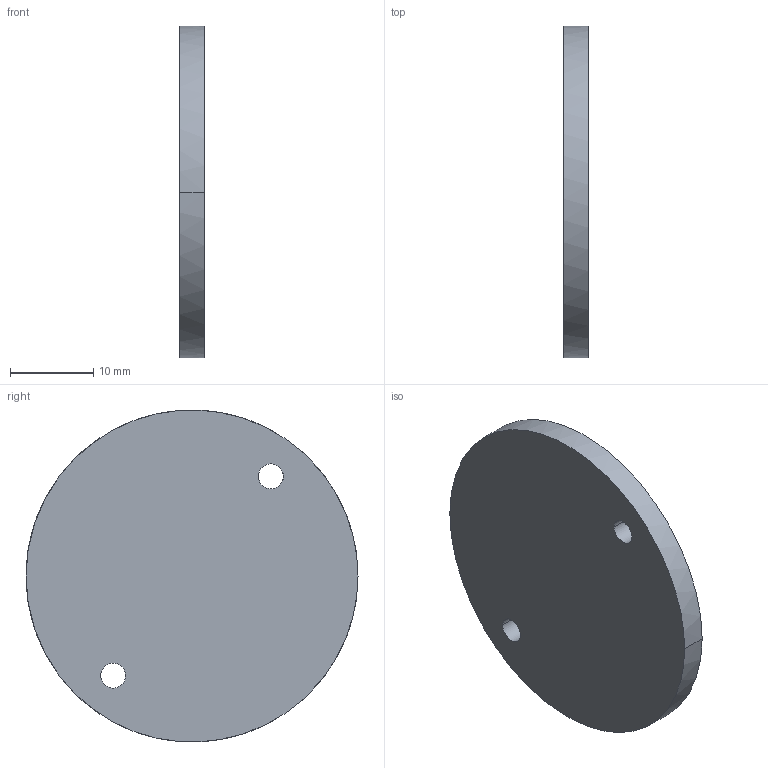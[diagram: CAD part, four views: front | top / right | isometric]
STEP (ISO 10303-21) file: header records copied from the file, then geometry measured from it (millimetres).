
FILE_DESCRIPTION(/* description */ (''),/* implementation_level */ '2;1');
FILE_NAME(/* name */ '1.frame-bottom#1.8#la-pan-8',/* time_stamp */ '2014-12-01T20:11:33+01:00',/* author */ (''),/* organization */ (''),/* preprocessor_version */ 'ST-DEVELOPER v14',/* originating_system */ '',/* authorisation */ '');
FILE_SCHEMA (('AUTOMOTIVE_DESIGN'));
Length unit declared in the file: millimetre
Products named in the file (1): Document
Bounding box: 3 x 40 x 39.97 mm (x, y, z)
Volume: 3738.9 mm3; surface area: 2926 mm2
Topology: 1 solids, 1 shells, 8 faces, 18 edges, 12 vertices
Faces by surface type: bspline 6, plane 2
Entity records: 556 total; most frequent: CARTESIAN_POINT 304, ORIENTED_EDGE 36, PCURVE 36, DEFINITIONAL_REPRESENTATION 36, B_SPLINE_CURVE_WITH_KNOTS 24, SURFACE_CURVE 18, EDGE_CURVE 18, EDGE_LOOP 12
